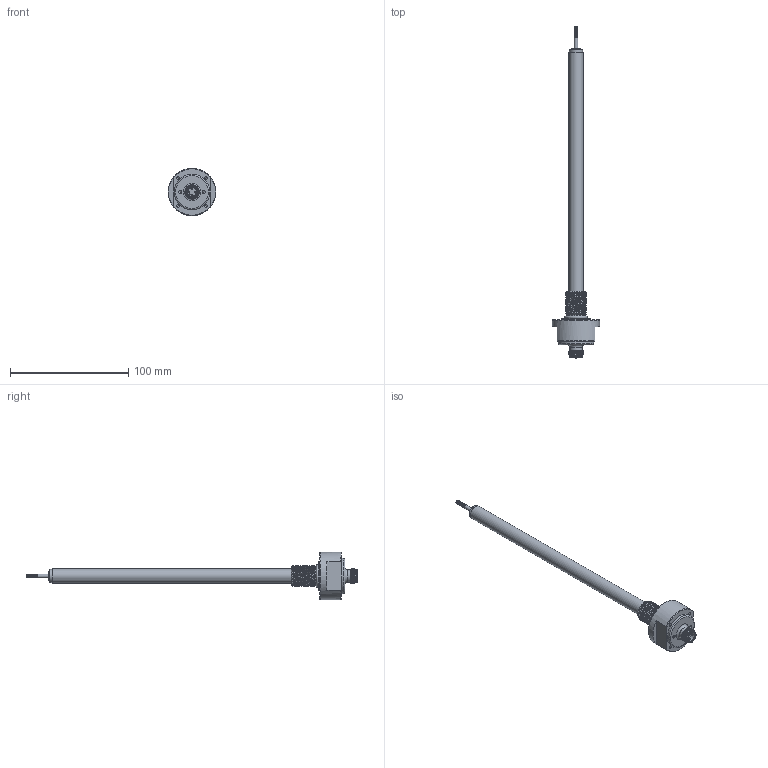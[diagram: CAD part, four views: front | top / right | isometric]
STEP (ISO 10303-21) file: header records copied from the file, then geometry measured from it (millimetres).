
FILE_DESCRIPTION( ( 'Unknown' ), '1' );
FILE_NAME( 'N:/Engineering/CAD/LVDT/HYD/Kunden-3D-Modell/SM120-HYD-18-S-M12.stp', 'Unknown', ( 'Unknown' ), ( 'Unknown' ), 'PSStep 17.0.49', 'Unknown', ' ' );
FILE_SCHEMA( ( 'AUTOMOTIVE_DESIGN { 1 0 10303 214 1 1 1 1 }' ) );
Length unit declared in the file: millimetre
Products named in the file (11): Einbaustecker_Waycon; Einbausteckverbinder_Waycon; Kontaktstift_M12; Assem1; Endkappe; Innenrohr_SM5-HYD; Kernverlängerung_SM5-HYD; SM-HYD-Flansch_M18_vereinfacht; O-Ring_15,4x2,1; Endkappe_HYD-KA_vereinfacht; Aussenrohr_SM120-HYD_vereinfacht
Assembly tree (13 placements, depth 3):
  Assem1
    Endkappe
    Innenrohr_SM5-HYD
    Kernverlängerung_SM5-HYD
    SM-HYD-Flansch_M18_vereinfacht
    O-Ring_15,4x2,1
    Endkappe_HYD-KA_vereinfacht
    Aussenrohr_SM120-HYD_vereinfacht
    Einbaustecker_Waycon
      Einbausteckverbinder_Waycon
      Kontaktstift_M12  x4
Bounding box: 40 x 280.2 x 40 mm (x, y, z)
Volume: 54015 mm3; surface area: 24031.3 mm2
Topology: 12 solids, 12 shells, 261 faces, 583 edges, 383 vertices
Faces by surface type: plane 122, cylinder 68, cone 37, extrusion 18, bspline 8, torus 8
Full cylindrical faces by diameter (mm): 0.5 x4, 1 x12, 1.2 x8, 1.8 x4, 2.013 x1, 2.4 x1, 2.5 x4, 2.6 x2, 3 x1, 4 x1, 6 x2, 8 x2, 8.2 x1, 8.3 x1, 9 x1, 9.35 x1, 9.55 x1, 10 x1, 10.05 x1, 10.5 x1, 10.6 x2, 11 x2, 12 x2, 15.8 x1, 22.5 x1, 24 x2, 30 x1, 40 x1
Entity records: 14294 total; most frequent: CARTESIAN_POINT 7955, DIRECTION 870, ORIENTED_EDGE 796, EDGE_CURVE 398, EDGE_LOOP 331, AXIS2_PLACEMENT_3D 327, VERTEX_POINT 309, FACE_OUTER_BOUND 264
